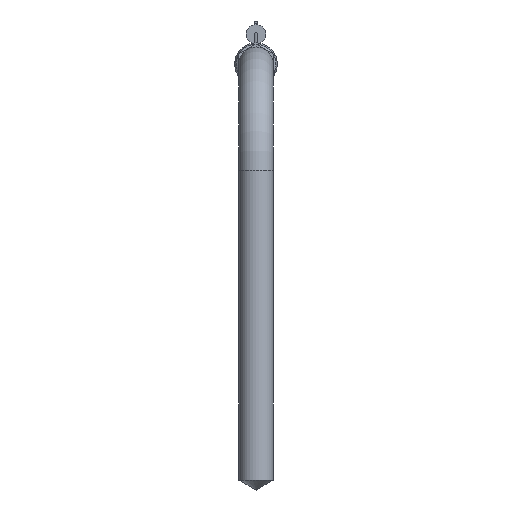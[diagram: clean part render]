
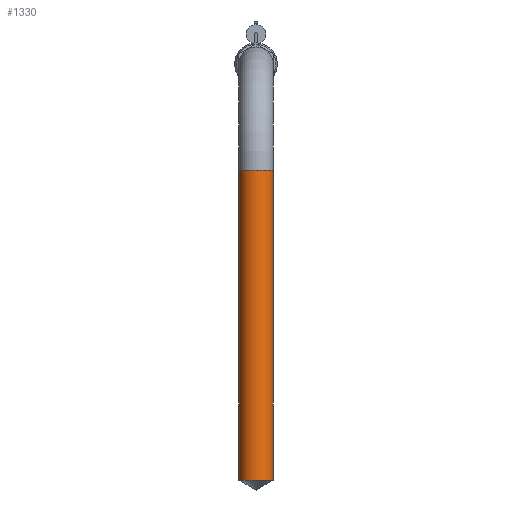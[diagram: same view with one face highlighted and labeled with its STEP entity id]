
A CAD part, top view. The second image highlights one B-rep face of the part: STEP entity #1330.
In plain terms, the highlighted cylindrical face has radius 4 mm (diameter 8 mm), a full revolution.
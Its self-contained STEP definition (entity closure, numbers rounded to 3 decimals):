
#76 = DIRECTION ( 'NONE',  ( 0., 0., 1. ) ) ;
#154 = EDGE_CURVE ( 'NONE', #834, #834, #746, .T. ) ;
#204 = CYLINDRICAL_SURFACE ( 'NONE', #2075, 4. ) ;
#239 = FACE_OUTER_BOUND ( 'NONE', #569, .T. ) ;
#322 = CARTESIAN_POINT ( 'NONE',  ( 0., -97.7, 38. ) ) ;
#404 = CARTESIAN_POINT ( 'NONE',  ( 0., -97.7, 34. ) ) ;
#405 = DIRECTION ( 'NONE',  ( 0., 0., 1. ) ) ;
#546 = DIRECTION ( 'NONE',  ( -1., 0., 0. ) ) ;
#569 = EDGE_LOOP ( 'NONE', ( #1894 ) ) ;
#711 = ORIENTED_EDGE ( 'NONE', *, *, #154, .T. ) ;
#746 = CIRCLE ( 'NONE', #856, 4. ) ;
#783 = CIRCLE ( 'NONE', #1343, 4. ) ;
#834 = VERTEX_POINT ( 'NONE', #1671 ) ;
#856 = AXIS2_PLACEMENT_3D ( 'NONE', #1060, #1364, #546 ) ;
#909 = DIRECTION ( 'NONE',  ( 0., 1., 0. ) ) ;
#1060 = CARTESIAN_POINT ( 'NONE',  ( 0., -25., 34. ) ) ;
#1330 = ADVANCED_FACE ( 'NONE', ( #239, #1399 ), #204, .T. ) ;
#1343 = AXIS2_PLACEMENT_3D ( 'NONE', #404, #909, #76 ) ;
#1364 = DIRECTION ( 'NONE',  ( 0., -1., 0. ) ) ;
#1399 = FACE_OUTER_BOUND ( 'NONE', #1505, .T. ) ;
#1505 = EDGE_LOOP ( 'NONE', ( #711 ) ) ;
#1540 = DIRECTION ( 'NONE',  ( 0., -1., 0. ) ) ;
#1671 = CARTESIAN_POINT ( 'NONE',  ( -4., -25., 34. ) ) ;
#1831 = VERTEX_POINT ( 'NONE', #322 ) ;
#1894 = ORIENTED_EDGE ( 'NONE', *, *, #1977, .T. ) ;
#1907 = CARTESIAN_POINT ( 'NONE',  ( 0., -25., 34. ) ) ;
#1977 = EDGE_CURVE ( 'NONE', #1831, #1831, #783, .T. ) ;
#2075 = AXIS2_PLACEMENT_3D ( 'NONE', #1907, #1540, #405 ) ;
